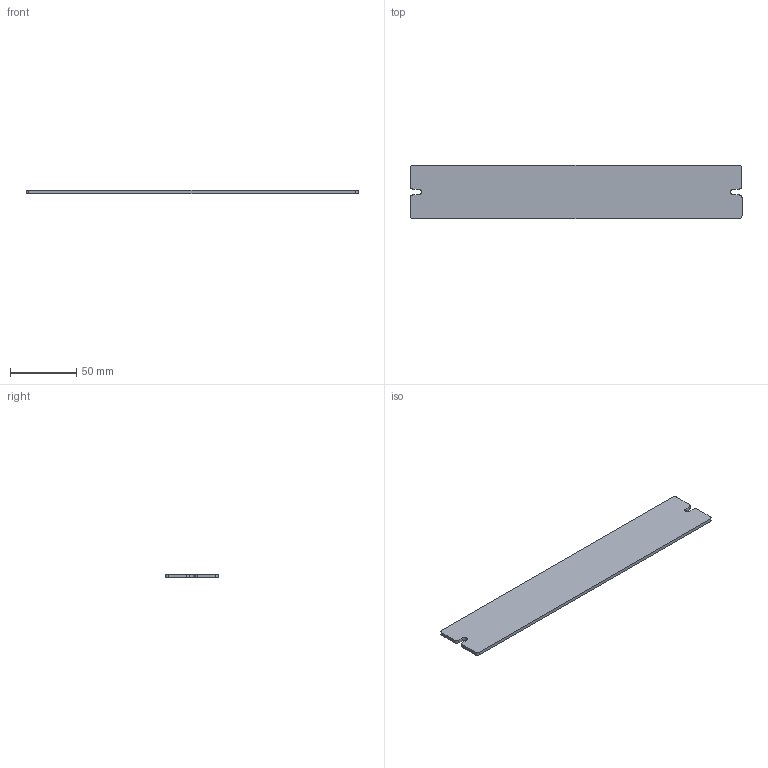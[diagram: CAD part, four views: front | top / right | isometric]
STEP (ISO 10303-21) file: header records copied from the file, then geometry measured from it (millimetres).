
FILE_DESCRIPTION(('FreeCAD Model'),'2;1');
FILE_NAME('Open CASCADE Shape Model','2023-08-07T10:31:22',(''),(''), 'Open CASCADE STEP processor 7.6','FreeCAD','Unknown');
FILE_SCHEMA(('AUTOMOTIVE_DESIGN { 1 2 10303 214 0 1 1 1 }'));
Length unit declared in the file: millimetre
Products named in the file (1): Body
Bounding box: 250 x 40 x 2.5 mm (x, y, z)
Volume: 24802.4 mm3; surface area: 21350.1 mm2
Topology: 1 solids, 1 shells, 22 faces, 60 edges, 40 vertices
Faces by surface type: plane 12, cylinder 10
Entity records: 1530 total; most frequent: CARTESIAN_POINT 291, DIRECTION 238, LINE 140, VECTOR 140, ORIENTED_EDGE 120, PCURVE 120, DEFINITIONAL_REPRESENTATION 120, EDGE_CURVE 60
